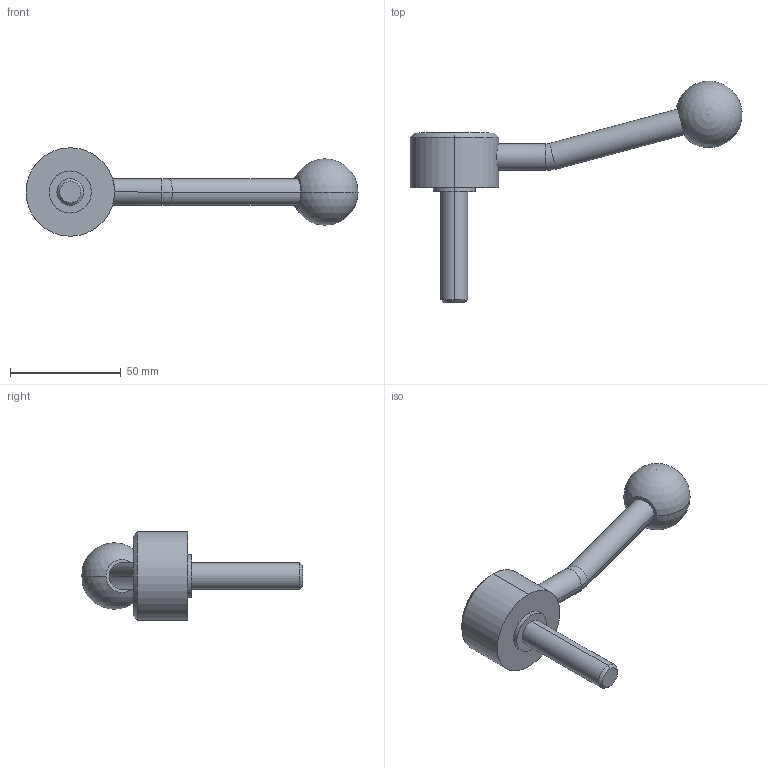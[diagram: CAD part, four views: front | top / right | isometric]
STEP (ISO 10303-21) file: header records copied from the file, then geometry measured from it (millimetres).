
FILE_DESCRIPTION (( 'STEP AP214' ), '1' );
FILE_NAME ('125.5-40-M12-50-E.step', '2020-02-18T11:37:53', ( '' ), ( '' ), 'SwSTEP 2.0', 'SolidWorks 2019', '' );
FILE_SCHEMA (( 'AUTOMOTIVE_DESIGN' ));
Length unit declared in the file: millimetre
Products named in the file (1): 125.5-40-M12-50-E
Bounding box: 149.94 x 99.94 x 40 mm (x, y, z)
Volume: 60402.7 mm3; surface area: 13220.1 mm2
Topology: 1 solids, 1 shells, 26 faces, 55 edges, 34 vertices
Faces by surface type: cylinder 12, plane 6, cone 4, torus 2, sphere 2
Entity records: 850 total; most frequent: CARTESIAN_POINT 192, DIRECTION 134, ORIENTED_EDGE 100, AXIS2_PLACEMENT_3D 59, EDGE_CURVE 50, CIRCLE 32, EDGE_LOOP 31, VERTEX_POINT 31
